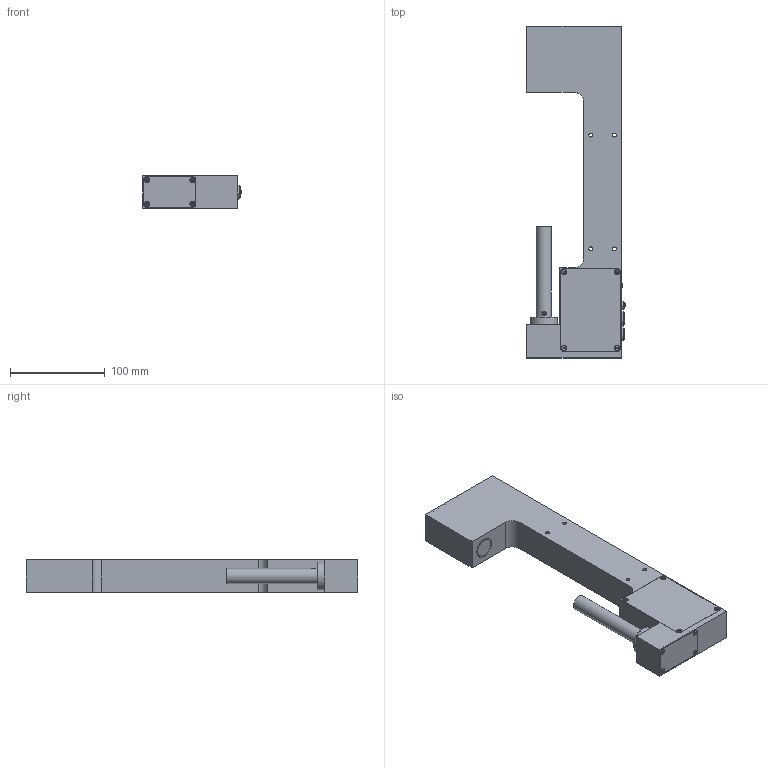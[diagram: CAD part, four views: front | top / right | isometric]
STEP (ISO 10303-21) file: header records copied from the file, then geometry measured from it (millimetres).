
FILE_DESCRIPTION(/* description */ (''),/* implementation_level */ '2;1');
FILE_NAME(/* name */ 'H:\ZVW\Inventor\E-Mail-Zeichnungen\STEP\L-LAS-TB-F-150_60-MO-8x_0895_00.stp',/* time_stamp */ '2014-01-16T11:28:48+01:00',/* author */ ('TK-01'),/* organization */ (''),/* preprocessor_version */ 'ST-DEVELOPER v15.2',/* originating_system */ 'Autodesk Inventor 2014',/* authorisation */ '');
FILE_SCHEMA (('AUTOMOTIVE_DESIGN { 1 0 10303 214 3 1 1 }'));
Length unit declared in the file: millimetre
Products named in the file (1): Bauteil3
Bounding box: 104 x 350 x 34 mm (x, y, z)
Volume: 757115.9 mm3; surface area: 93664.7 mm2
Topology: 1 solids, 7 shells, 766 faces, 2030 edges, 1358 vertices
Faces by surface type: plane 344, cylinder 313, cone 74, bspline 29, sphere 5, torus 1
Full cylindrical faces by diameter (mm): 0.5 x19, 2.4 x1, 2.5 x12, 2.6 x1, 2.9 x12, 3 x4, 3.1 x4, 4 x1, 4.134 x7, 4.5 x1, 5 x14, 6 x1, 7 x1, 7.05 x1, 7.1 x1, 7.3 x1, 9 x2, 12 x1, 12.7 x1, 16 x1, 19 x1, 19.1 x1, 22 x1, 22.05 x1, 24.2 x1, 24.536 x1, 29 x1
Entity records: 31236 total; most frequent: CARTESIAN_POINT 13011, ORIENTED_EDGE 3600, DIRECTION 3385, EDGE_CURVE 1800, AXIS2_PLACEMENT_3D 1294, VERTEX_POINT 1290, EDGE_LOOP 1016, LINE 797
